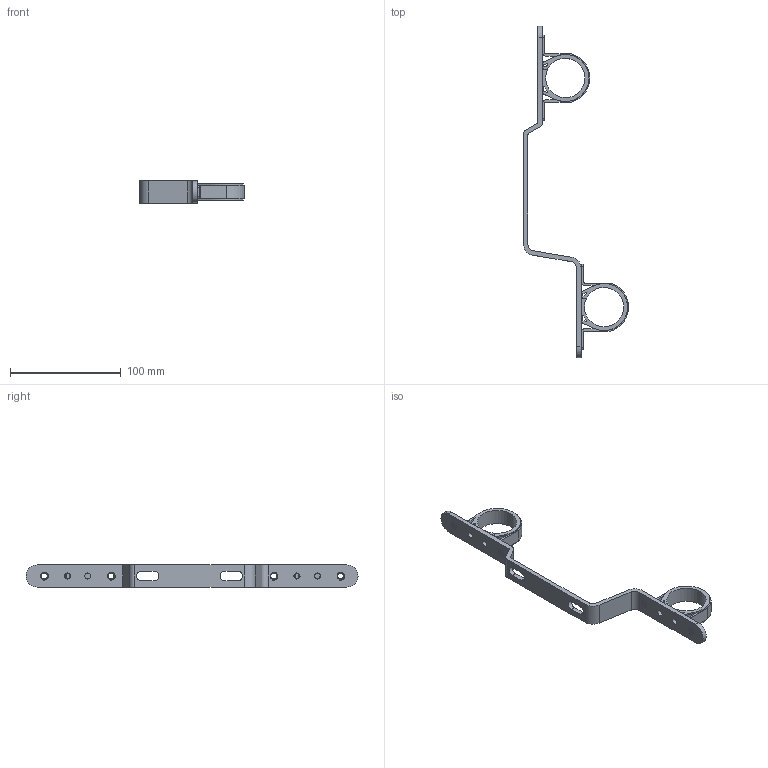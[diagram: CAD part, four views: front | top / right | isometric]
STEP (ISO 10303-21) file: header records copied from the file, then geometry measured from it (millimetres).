
FILE_DESCRIPTION(/* description */ (''),/* implementation_level */ '2;1');
FILE_NAME(/* name */ 'F:\Артём\00000\Работа удаленка\VTc.130\VTc.130.IN.0600.stp',/* time_stamp */ '2022-09-07T12:03:50+03:00',/* author */ ('almis'),/* organization */ (''),/* preprocessor_version */ 'ST-DEVELOPER v18',/* originating_system */ 'Autodesk Inventor 2020',/* authorisation */ '');
FILE_SCHEMA (('AUTOMOTIVE_DESIGN { 1 0 10303 214 3 1 1 }'));
Length unit declared in the file: millimetre
Products named in the file (1): VTc.130.IN.0600
Bounding box: 94.81 x 300 x 20 mm (x, y, z)
Volume: 40697.4 mm3; surface area: 32537.4 mm2
Topology: 1 solids, 1 shells, 271 faces, 791 edges, 506 vertices
Faces by surface type: cylinder 131, plane 108, torus 20, bspline 8, cone 4
Full cylindrical faces by diameter (mm): 5.4 x12, 5.5 x4
Entity records: 13272 total; most frequent: CARTESIAN_POINT 5962, ORIENTED_EDGE 1582, DIRECTION 1493, EDGE_CURVE 791, AXIS2_PLACEMENT_3D 539, VERTEX_POINT 506, LINE 415, VECTOR 415
